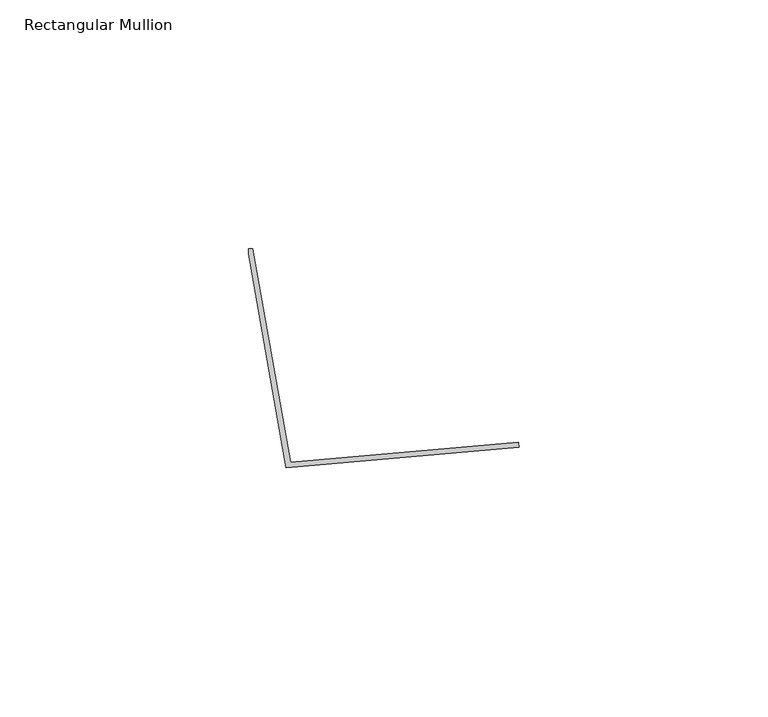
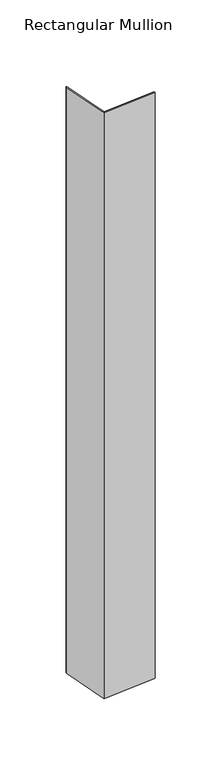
"""IFC4 building model written with IfcOpenShell, lengths in millimetres: member geometry, Rectangular Mullion : CD_NINELINE_Batten Start."""

import ifcopenshell
import ifcopenshell.guid

model = None  # the IFC model being written
_history = None  # IfcOwnerHistory: only IFC2X3 demands one
_inside = {}  # id of a spatial element -> (the spatial element, [elements in it])
_under = {}  # id of a project, library or spatial element -> (it, [spatial elements below it])
_declared = {}  # id of a project -> (the project, [libraries it declares])
_typed = {}  # id of a type object -> (the type object, [elements of that type])
_made_of = {}  # id of a material, layer set ... -> (it, [elements and type objects made of it])


def new_model(schema):
    """Start an empty IFC model of exactly this schema.

    Asked for "IFC4X3", IfcOpenShell would pick the latest addendum, in which some entities
    have other attributes; the version numbers below select the first issue.
    IFC2X3 requires an IfcOwnerHistory on every rooted entity: one is made here for all.
    """
    global model, _history
    if schema == "IFC4X3":
        model = ifcopenshell.file(schema_version=(4, 3, 0, 0))
    else:
        model = ifcopenshell.file(schema=schema)
    _inside.clear()
    _under.clear()
    _declared.clear()
    _typed.clear()
    _made_of.clear()
    _history = None
    if model.schema == "IFC2X3":
        org = make("IfcOrganization", Name="unknown")
        user = make(
            "IfcPersonAndOrganization",
            ThePerson=make("IfcPerson", FamilyName="unknown"),
            TheOrganization=org,
        )
        app = make(
            "IfcApplication",
            ApplicationDeveloper=org,
            Version="unknown",
            ApplicationFullName="unknown",
            ApplicationIdentifier="unknown",
        )
        _history = make(
            "IfcOwnerHistory",
            OwningUser=user,
            OwningApplication=app,
            ChangeAction="ADDED",
            CreationDate=0,
        )
    return model


def make(cls, **values):
    """One entity of the class cls with the attributes given. An attribute that is None is left unset."""
    return model.create_entity(
        cls, **{name: value for name, value in values.items() if value is not None}
    )


def rooted(cls, **values):
    """An entity with a GlobalId (a new one), such as an element, a storey or a relation."""
    return make(cls, GlobalId=ifcopenshell.guid.new(), OwnerHistory=_history, **values)


def si_unit(unit_type, name, prefix=None):
    """IfcSIUnit, for example si_unit("LENGTHUNIT", "METRE", prefix="MILLI")."""
    return make("IfcSIUnit", UnitType=unit_type, Prefix=prefix, Name=name)


def assignment(units):
    """IfcUnitAssignment: the units of a project."""
    return None if units is None else make("IfcUnitAssignment", Units=units)


def point(xyz):
    """IfcCartesianPoint."""
    return None if xyz is None else make("IfcCartesianPoint", Coordinates=xyz)


def direction(xyz):
    """IfcDirection."""
    return None if xyz is None else make("IfcDirection", DirectionRatios=xyz)


def frame(location, z_axis=None, x_axis=None):
    """IfcAxis2Placement3D, a coordinate frame: its origin and axes. An axis left out is left unset."""
    return make(
        "IfcAxis2Placement3D",
        Location=point(location),
        Axis=direction(z_axis),
        RefDirection=direction(x_axis),
    )


def origin():
    """The frame at (0, 0, 0) with its axes left unset."""
    return frame((0.0, 0.0, 0.0))


def place(relative_to, where):
    """IfcLocalPlacement: puts the frame where relative to a parent placement (None: the world)."""
    return make(
        "IfcLocalPlacement", PlacementRelTo=relative_to, RelativePlacement=where
    )


def context(
    kind, dimensions, precision=None, world=None, true_north=None, identifier=None
):
    """IfcGeometricRepresentationContext, for example the 3D "Model" context."""
    return make(
        "IfcGeometricRepresentationContext",
        ContextIdentifier=identifier,
        ContextType=kind,
        CoordinateSpaceDimension=dimensions,
        Precision=precision,
        WorldCoordinateSystem=world,
        TrueNorth=true_north,
    )


def project(units=None, contexts=None):
    """IfcProject with its units and contexts."""
    return rooted(
        "IfcProject",
        Name="project",
        RepresentationContexts=contexts,
        UnitsInContext=assignment(units),
    )


def spatial(cls, under=None, at=None, **own):
    """A site, building, storey or space (cls), placed at a placement, below another one or the project."""
    s = rooted(cls, ObjectPlacement=at, **own)
    if under is not None:
        _under.setdefault(under.id(), (under, []))[1].append(s)
    return s


def polyline(points):
    """IfcPolyline through the points."""
    return make("IfcPolyline", Points=[point(p) for p in points])


def outline(outer, holes=None, kind="AREA"):
    """IfcArbitraryClosedProfileDef: a profile drawn as a closed curve; with holes, ...WithVoids."""
    if holes is None:
        return make("IfcArbitraryClosedProfileDef", ProfileType=kind, OuterCurve=outer)
    return make(
        "IfcArbitraryProfileDefWithVoids",
        ProfileType=kind,
        OuterCurve=outer,
        InnerCurves=holes,
    )


def extrude(swept, where, along, depth):
    """IfcExtrudedAreaSolid: the profile swept, set in the frame where, extruded along a direction by depth."""
    return make(
        "IfcExtrudedAreaSolid",
        SweptArea=swept,
        Position=where,
        ExtrudedDirection=direction(along),
        Depth=depth,
    )


def shape(context_of_items, identifier, shape_type, items):
    """IfcShapeRepresentation: the items that make up one representation, for example the "Body"."""
    return make(
        "IfcShapeRepresentation",
        ContextOfItems=context_of_items,
        RepresentationIdentifier=identifier,
        RepresentationType=shape_type,
        Items=items,
    )


def source(mapping_origin, context_of_items, identifier, shape_type, items):
    """IfcRepresentationMap: a shape defined once, which mapped items show again and again."""
    return make(
        "IfcRepresentationMap",
        MappingOrigin=mapping_origin,
        MappedRepresentation=shape(context_of_items, identifier, shape_type, items),
    )


def transform(
    local_origin,
    x_axis=None,
    y_axis=None,
    z_axis=None,
    scale=None,
    scale2=None,
    scale3=None,
    uniform=True,
):
    """IfcCartesianTransformationOperator3D, or its non-uniform kind. x_axis, y_axis, z_axis: its Axis1, 2, 3."""
    if uniform:
        return make(
            "IfcCartesianTransformationOperator3D",
            Axis1=direction(x_axis),
            Axis2=direction(y_axis),
            LocalOrigin=point(local_origin),
            Scale=scale,
            Axis3=direction(z_axis),
        )
    return make(
        "IfcCartesianTransformationOperator3DnonUniform",
        Axis1=direction(x_axis),
        Axis2=direction(y_axis),
        LocalOrigin=point(local_origin),
        Scale=scale,
        Axis3=direction(z_axis),
        Scale2=scale2,
        Scale3=scale3,
    )


def mapped(mapping_source, mapping_target):
    """IfcMappedItem: shows the shape of a source again, moved by a transform."""
    return make(
        "IfcMappedItem", MappingSource=mapping_source, MappingTarget=mapping_target
    )


def made_of(thing, what):
    """Note that an element or type object is made of a material, layer set ...; save() writes the relation."""
    if what is not None:
        _made_of.setdefault(what.id(), (what, []))[1].append(thing)
    return thing


def element(
    cls,
    number,
    at=None,
    inside=None,
    cuts=None,
    type_object=None,
    material=None,
    context=None,
    identifier="Body",
    shape_type=None,
    held_by="IfcProductDefinitionShape",
    body=None,
    shapes=None,
    **own,
):
    """One element of the class cls, such as IfcWall. Its Tag is "e" and its number.

    at: its placement. inside: the storey or other place that contains it. cuts: it is an
    opening in that element (IfcRelVoidsElement). A single representation is given by context,
    identifier, shape_type and body (its items); several are given by shapes. held_by: the class
    of the entity that holds the representations. save() writes the other relations.
    """
    e = rooted(cls, Tag="e%d" % number, ObjectPlacement=at, **own)
    if body is not None:
        shapes = [shape(context, identifier, shape_type, body)]
    if shapes is not None:
        e.Representation = make(held_by, Representations=shapes)
    if inside is not None:
        _inside.setdefault(inside.id(), (inside, []))[1].append(e)
    if cuts is not None:
        rooted(
            "IfcRelVoidsElement", RelatingBuildingElement=cuts, RelatedOpeningElement=e
        )
    if type_object is not None:
        _typed.setdefault(type_object.id(), (type_object, []))[1].append(e)
    return made_of(e, material)


def aggregate(whole, parts):
    """IfcRelAggregates: a whole, such as a stair, and the parts it consists of."""
    return rooted("IfcRelAggregates", RelatingObject=whole, RelatedObjects=parts)


def save(model, path):
    """Write the relations noted so far, then the file.

    IfcRelAggregates (storeys below a building ...), IfcRelContainedInSpatialStructure (elements
    in a storey), IfcRelDefinesByType, IfcRelAssociatesMaterial and IfcRelDeclares: one each for
    every whole, place, type object, material and project.
    """
    for whole, parts in _under.values():
        aggregate(whole, parts)
    for where, things in _inside.values():
        rooted(
            "IfcRelContainedInSpatialStructure",
            RelatedElements=things,
            RelatingStructure=where,
        )
    for kind, things in _typed.values():
        rooted("IfcRelDefinesByType", RelatedObjects=things, RelatingType=kind)
    for what, things in _made_of.values():
        rooted("IfcRelAssociatesMaterial", RelatedObjects=things, RelatingMaterial=what)
    for by, libraries in _declared.values():
        rooted("IfcRelDeclares", RelatingContext=by, RelatedDefinitions=libraries)
    model.write(path)


def rectangular_mullion_f8ecf559(model_context):
    return source(origin(), model_context, "Body", "SweptSolid", [
        extrude(outline(polyline([(-54.4029206, -0.9999629), (-54.4029206, 3.78e-05), (-53.5638148, 3.78e-05), (-45.9954846, -42.9239479), (-0.0871484, -38.9078303), (0.0, -39.9040256), (-46.821181, -44.0), (-54.4029206, -0.9999629)])), frame((0.0, 0.0, -540.0), z_axis=(0.0, 0.0, 1.0), x_axis=(1.0, 0.0, 0.0)), (0.0, 0.0, 1.0), 540.0),
    ])


if __name__ == "__main__":
    model = new_model("IFC4")
    model_context = context("Model", 3, world=origin())
    ifc_project = project(units=[si_unit("LENGTHUNIT", "METRE", prefix="MILLI")], contexts=[model_context])
    site = spatial("IfcSite", under=ifc_project)
    building = spatial("IfcBuilding", under=site)
    placement = place(None, origin())
    rectangular_mullion_shape = rectangular_mullion_f8ecf559(model_context)
    element("IfcMember", 1, ObjectType="Rectangular Mullion : CD_NINELINE_Batten Start", at=placement, inside=building, context=model_context, shape_type="MappedRepresentation", body=[
        mapped(rectangular_mullion_shape, transform((0.0, 0.0, 0.0), x_axis=(1.0, 0.0, 0.0), y_axis=(0.0, 1.0, 0.0), z_axis=(0.0, 0.0, 1.0))),
    ])
    save(model, "model.ifc")
